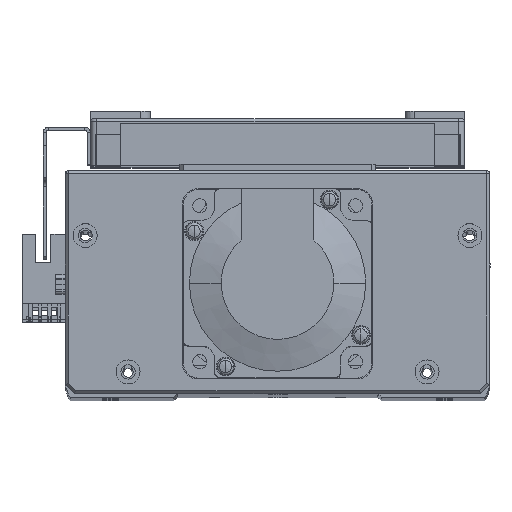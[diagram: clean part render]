
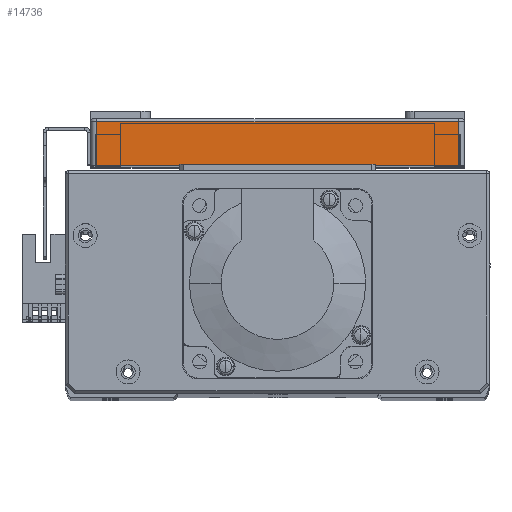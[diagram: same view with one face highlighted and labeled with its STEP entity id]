
A CAD part, top view. The second image highlights one B-rep face of the part: STEP entity #14736.
In plain terms, the highlighted planar face has unit normal (0, 0, 1) as drawn and (-1, 0, 0) by its records, which use the part's own axes.
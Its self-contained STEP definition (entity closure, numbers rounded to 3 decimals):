
#5471 = FACE_OUTER_BOUND ( 'NONE', #37236, .T. ) ;
#14613 = PLANE ( 'NONE',  #20795 ) ;
#14619 = CARTESIAN_POINT ( 'NONE',  ( -95., 15., -59.5 ) ) ;
#14643 = DIRECTION ( 'NONE',  ( 0., 0., -1. ) ) ;
#14670 = DIRECTION ( 'NONE',  ( 1., 0., 0. ) ) ;
#14736 = ADVANCED_FACE ( 'NONE', ( #5471 ), #14613, .F. ) ;
#17627 = CARTESIAN_POINT ( 'NONE',  ( -95., 0., -57.5 ) ) ;
#17711 = CARTESIAN_POINT ( 'NONE',  ( -95., 0., 57.5 ) ) ;
#17802 = CARTESIAN_POINT ( 'NONE',  ( -95., 14., -57.5 ) ) ;
#17835 = CARTESIAN_POINT ( 'NONE',  ( -95., 14., 57.5 ) ) ;
#20795 = AXIS2_PLACEMENT_3D ( 'NONE', #14619, #14670, #14643 ) ;
#27947 = ORIENTED_EDGE ( 'NONE', *, *, #33067, .T. ) ;
#27952 = ORIENTED_EDGE ( 'NONE', *, *, #33130, .T. ) ;
#27964 = ORIENTED_EDGE ( 'NONE', *, *, #33072, .T. ) ;
#27992 = ORIENTED_EDGE ( 'NONE', *, *, #32994, .T. ) ;
#32994 = EDGE_CURVE ( 'NONE', #42570, #42491, #45343, .T. ) ;
#33067 = EDGE_CURVE ( 'NONE', #42508, #42561, #45452, .T. ) ;
#33072 = EDGE_CURVE ( 'NONE', #42491, #42508, #45476, .T. ) ;
#33130 = EDGE_CURVE ( 'NONE', #42561, #42570, #45547, .T. ) ;
#35239 = CARTESIAN_POINT ( 'NONE',  ( -95., 14., -57.5 ) ) ;
#35278 = DIRECTION ( 'NONE',  ( 0., 0., -1. ) ) ;
#37236 = EDGE_LOOP ( 'NONE', ( #27947, #27952, #27992, #27964 ) ) ;
#39602 = CARTESIAN_POINT ( 'NONE',  ( -95., 15., -57.5 ) ) ;
#39671 = DIRECTION ( 'NONE',  ( 0., -1., 0. ) ) ;
#39791 = DIRECTION ( 'NONE',  ( 0., 1., 0. ) ) ;
#39830 = CARTESIAN_POINT ( 'NONE',  ( -95., 15., 57.5 ) ) ;
#39845 = CARTESIAN_POINT ( 'NONE',  ( -95., 0., -59.5 ) ) ;
#39863 = DIRECTION ( 'NONE',  ( 0., 0., 1. ) ) ;
#42491 = VERTEX_POINT ( 'NONE', #17627 ) ;
#42508 = VERTEX_POINT ( 'NONE', #17711 ) ;
#42561 = VERTEX_POINT ( 'NONE', #17835 ) ;
#42570 = VERTEX_POINT ( 'NONE', #17802 ) ;
#45333 = VECTOR ( 'NONE', #39671, 1000. ) ;
#45343 = LINE ( 'NONE', #39602, #45333 ) ;
#45452 = LINE ( 'NONE', #39830, #45488 ) ;
#45465 = VECTOR ( 'NONE', #39863, 1000. ) ;
#45476 = LINE ( 'NONE', #39845, #45465 ) ;
#45488 = VECTOR ( 'NONE', #39791, 1000. ) ;
#45547 = LINE ( 'NONE', #35239, #45548 ) ;
#45548 = VECTOR ( 'NONE', #35278, 1000. ) ;
